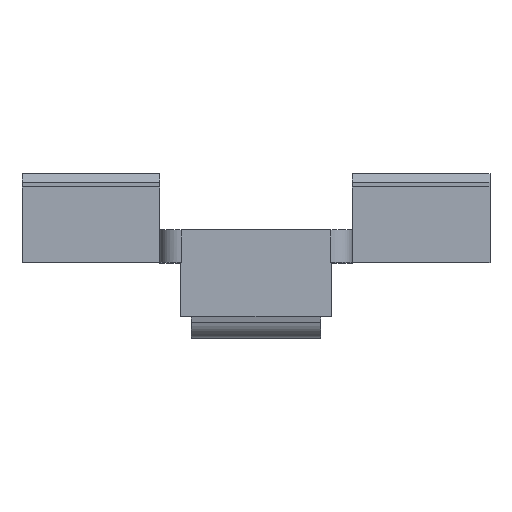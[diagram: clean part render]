
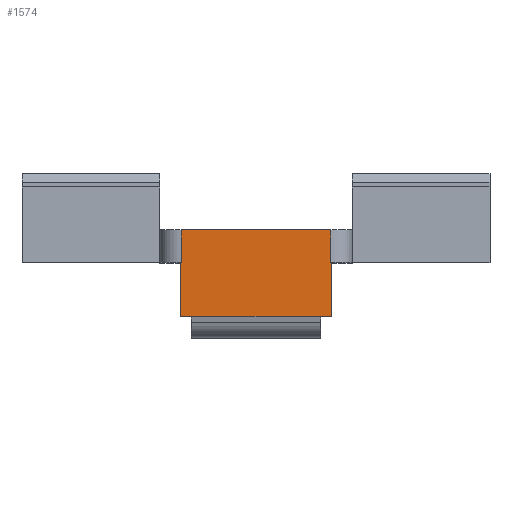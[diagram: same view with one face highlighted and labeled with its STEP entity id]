
A CAD part, top view. The second image highlights one B-rep face of the part: STEP entity #1574.
In plain terms, the highlighted planar face has unit normal (0, 0, 1).
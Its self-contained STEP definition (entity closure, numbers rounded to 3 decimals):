
#79 = CARTESIAN_POINT ( 'NONE',  ( -6.95, -3., 21. ) ) ;
#133 = CARTESIAN_POINT ( 'NONE',  ( 7., -3., 21. ) ) ;
#136 = VECTOR ( 'NONE', #173, 1000. ) ;
#173 = DIRECTION ( 'NONE',  ( -1., 0., 0. ) ) ;
#184 = DIRECTION ( 'NONE',  ( 0., 1., 0. ) ) ;
#277 = VECTOR ( 'NONE', #709, 1000. ) ;
#280 = CARTESIAN_POINT ( 'NONE',  ( 7., -3., 21. ) ) ;
#312 = DIRECTION ( 'NONE',  ( 0., 1., 0. ) ) ;
#331 = CARTESIAN_POINT ( 'NONE',  ( 6.95, -3., 21. ) ) ;
#335 = FACE_OUTER_BOUND ( 'NONE', #2462, .T. ) ;
#402 = LINE ( 'NONE', #2256, #1485 ) ;
#409 = DIRECTION ( 'NONE',  ( -1., 0., 0. ) ) ;
#414 = LINE ( 'NONE', #1383, #1784 ) ;
#557 = LINE ( 'NONE', #1354, #1533 ) ;
#641 = CARTESIAN_POINT ( 'NONE',  ( -7., -3., 21. ) ) ;
#644 = VERTEX_POINT ( 'NONE', #79 ) ;
#661 = CARTESIAN_POINT ( 'NONE',  ( 7., -8., 21. ) ) ;
#697 = VERTEX_POINT ( 'NONE', #133 ) ;
#709 = DIRECTION ( 'NONE',  ( 0., -1., 0. ) ) ;
#789 = VERTEX_POINT ( 'NONE', #331 ) ;
#801 = ORIENTED_EDGE ( 'NONE', *, *, #2043, .T. ) ;
#804 = AXIS2_PLACEMENT_3D ( 'NONE', #1714, #2444, #1454 ) ;
#864 = DIRECTION ( 'NONE',  ( 1., 0., 0. ) ) ;
#915 = ORIENTED_EDGE ( 'NONE', *, *, #1909, .T. ) ;
#952 = ORIENTED_EDGE ( 'NONE', *, *, #1828, .T. ) ;
#977 = CARTESIAN_POINT ( 'NONE',  ( -7., -8., 21. ) ) ;
#1044 = VECTOR ( 'NONE', #409, 1000. ) ;
#1137 = ORIENTED_EDGE ( 'NONE', *, *, #1811, .F. ) ;
#1187 = LINE ( 'NONE', #2178, #277 ) ;
#1313 = LINE ( 'NONE', #280, #2306 ) ;
#1316 = LINE ( 'NONE', #2340, #1044 ) ;
#1345 = VERTEX_POINT ( 'NONE', #1733 ) ;
#1354 = CARTESIAN_POINT ( 'NONE',  ( 7., -3., 21. ) ) ;
#1361 = ORIENTED_EDGE ( 'NONE', *, *, #2298, .F. ) ;
#1383 = CARTESIAN_POINT ( 'NONE',  ( 6.95, 0., 21. ) ) ;
#1454 = DIRECTION ( 'NONE',  ( 1., 0., 0. ) ) ;
#1466 = EDGE_CURVE ( 'NONE', #1345, #1615, #414, .T. ) ;
#1485 = VECTOR ( 'NONE', #184, 1000. ) ;
#1533 = VECTOR ( 'NONE', #2323, 1000. ) ;
#1569 = ORIENTED_EDGE ( 'NONE', *, *, #1894, .T. ) ;
#1574 = ADVANCED_FACE ( 'NONE', ( #335 ), #2128, .T. ) ;
#1615 = VERTEX_POINT ( 'NONE', #2028 ) ;
#1714 = CARTESIAN_POINT ( 'NONE',  ( 6.95, -3., 21. ) ) ;
#1733 = CARTESIAN_POINT ( 'NONE',  ( -6.95, 0., 21. ) ) ;
#1750 = LINE ( 'NONE', #2464, #2339 ) ;
#1760 = LINE ( 'NONE', #2438, #136 ) ;
#1784 = VECTOR ( 'NONE', #864, 1000. ) ;
#1811 = EDGE_CURVE ( 'NONE', #2499, #1973, #1316, .T. ) ;
#1828 = EDGE_CURVE ( 'NONE', #644, #2296, #1760, .T. ) ;
#1894 = EDGE_CURVE ( 'NONE', #697, #789, #557, .T. ) ;
#1909 = EDGE_CURVE ( 'NONE', #2296, #1973, #1187, .T. ) ;
#1917 = ORIENTED_EDGE ( 'NONE', *, *, #1996, .F. ) ;
#1965 = ORIENTED_EDGE ( 'NONE', *, *, #1466, .F. ) ;
#1973 = VERTEX_POINT ( 'NONE', #977 ) ;
#1996 = EDGE_CURVE ( 'NONE', #644, #1345, #402, .T. ) ;
#2028 = CARTESIAN_POINT ( 'NONE',  ( 6.95, 0., 21. ) ) ;
#2043 = EDGE_CURVE ( 'NONE', #789, #1615, #1750, .T. ) ;
#2128 = PLANE ( 'NONE',  #804 ) ;
#2178 = CARTESIAN_POINT ( 'NONE',  ( -7., -3., 21. ) ) ;
#2256 = CARTESIAN_POINT ( 'NONE',  ( -6.95, -3., 21. ) ) ;
#2264 = DIRECTION ( 'NONE',  ( 0., -1., 0. ) ) ;
#2296 = VERTEX_POINT ( 'NONE', #641 ) ;
#2298 = EDGE_CURVE ( 'NONE', #697, #2499, #1313, .T. ) ;
#2306 = VECTOR ( 'NONE', #2264, 1000. ) ;
#2323 = DIRECTION ( 'NONE',  ( -1., 0., 0. ) ) ;
#2339 = VECTOR ( 'NONE', #312, 1000. ) ;
#2340 = CARTESIAN_POINT ( 'NONE',  ( 7., -8., 21. ) ) ;
#2438 = CARTESIAN_POINT ( 'NONE',  ( 7., -3., 21. ) ) ;
#2444 = DIRECTION ( 'NONE',  ( 0., 0., 1. ) ) ;
#2462 = EDGE_LOOP ( 'NONE', ( #1965, #1917, #952, #915, #1137, #1361, #1569, #801 ) ) ;
#2464 = CARTESIAN_POINT ( 'NONE',  ( 6.95, -3., 21. ) ) ;
#2499 = VERTEX_POINT ( 'NONE', #661 ) ;
